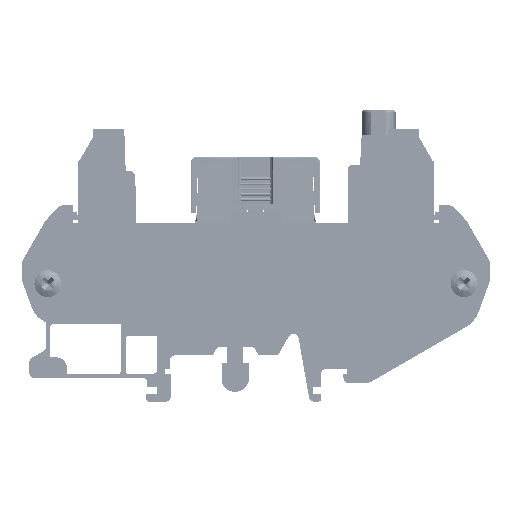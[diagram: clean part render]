
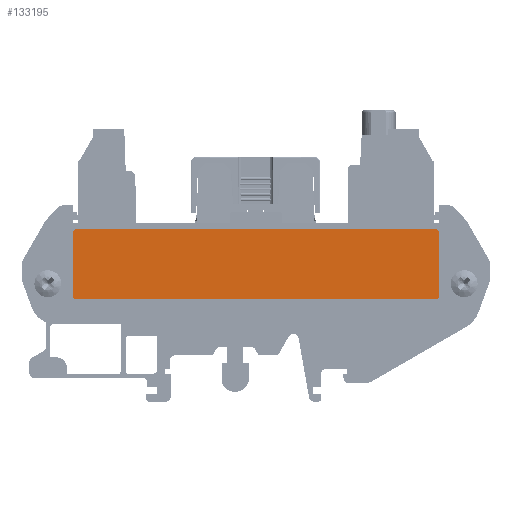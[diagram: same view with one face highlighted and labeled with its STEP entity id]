
A CAD part, left-side view. The second image highlights one B-rep face of the part: STEP entity #133195.
In plain terms, the highlighted planar face has unit normal (-1, 0, 0).
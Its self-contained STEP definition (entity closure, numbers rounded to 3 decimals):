
#5613=CIRCLE('',#143857,0.5);
#5732=CIRCLE('',#144107,0.5);
#5734=CIRCLE('',#144113,0.5);
#5748=CIRCLE('',#144166,0.5);
#14077=FACE_OUTER_BOUND('',#21230,.T.);
#21230=EDGE_LOOP('',(#114119,#114120,#114121,#114122,#114123,#114124,#114125,
#114126));
#34003=LINE('',#271653,#47313);
#34377=LINE('',#272652,#47687);
#34380=LINE('',#272660,#47690);
#34451=LINE('',#272832,#47761);
#47313=VECTOR('',#177722,1000.);
#47687=VECTOR('',#178634,1000.);
#47690=VECTOR('',#178639,1000.);
#47761=VECTOR('',#178826,1000.);
#59696=VERTEX_POINT('',#271650);
#59697=VERTEX_POINT('',#271652);
#59713=VERTEX_POINT('',#271703);
#60051=VERTEX_POINT('',#272643);
#60053=VERTEX_POINT('',#272650);
#60056=VERTEX_POINT('',#272657);
#60057=VERTEX_POINT('',#272659);
#60100=VERTEX_POINT('',#272827);
#77654=EDGE_CURVE('',#59696,#59697,#34003,.T.);
#77680=EDGE_CURVE('',#59697,#59713,#5613,.T.);
#78152=EDGE_CURVE('',#60051,#59696,#5732,.T.);
#78155=EDGE_CURVE('',#60053,#60051,#34377,.T.);
#78158=EDGE_CURVE('',#60057,#60056,#34380,.T.);
#78161=EDGE_CURVE('',#60057,#60053,#5734,.T.);
#78244=EDGE_CURVE('',#60100,#60056,#5748,.T.);
#78245=EDGE_CURVE('',#59713,#60100,#34451,.T.);
#114119=ORIENTED_EDGE('',*,*,#78245,.F.);
#114120=ORIENTED_EDGE('',*,*,#77680,.F.);
#114121=ORIENTED_EDGE('',*,*,#77654,.F.);
#114122=ORIENTED_EDGE('',*,*,#78152,.F.);
#114123=ORIENTED_EDGE('',*,*,#78155,.F.);
#114124=ORIENTED_EDGE('',*,*,#78161,.F.);
#114125=ORIENTED_EDGE('',*,*,#78158,.T.);
#114126=ORIENTED_EDGE('',*,*,#78244,.F.);
#120144=PLANE('',#144168);
#133195=ADVANCED_FACE('',(#14077),#120144,.F.);
#143857=AXIS2_PLACEMENT_3D('',#271704,#177773,#177774);
#144107=AXIS2_PLACEMENT_3D('',#272645,#178626,#178627);
#144113=AXIS2_PLACEMENT_3D('',#272664,#178645,#178646);
#144166=AXIS2_PLACEMENT_3D('',#272829,#178820,#178821);
#144168=AXIS2_PLACEMENT_3D('',#272831,#178824,#178825);
#177722=DIRECTION('',(0.,0.,1.));
#177773=DIRECTION('center_axis',(1.,0.,0.));
#177774=DIRECTION('ref_axis',(0.,-1.,0.));
#178626=DIRECTION('center_axis',(1.,0.,0.));
#178627=DIRECTION('ref_axis',(0.,-1.,0.));
#178634=DIRECTION('',(0.,1.,0.));
#178639=DIRECTION('',(0.,0.,1.));
#178645=DIRECTION('center_axis',(1.,0.,0.));
#178646=DIRECTION('ref_axis',(0.,-1.,0.));
#178820=DIRECTION('center_axis',(1.,0.,0.));
#178821=DIRECTION('ref_axis',(0.,-1.,0.));
#178824=DIRECTION('center_axis',(1.,0.,0.));
#178825=DIRECTION('ref_axis',(0.,1.,0.));
#178826=DIRECTION('',(0.,-1.,0.));
#271650=CARTESIAN_POINT('',(-1.3,71.,-14.2));
#271652=CARTESIAN_POINT('',(-1.3,71.,-1.8));
#271653=CARTESIAN_POINT('',(-1.3,71.,-14.2));
#271703=CARTESIAN_POINT('',(-1.3,70.5,-1.3));
#271704=CARTESIAN_POINT('Origin',(-1.3,70.5,-1.8));
#272643=CARTESIAN_POINT('',(-1.3,70.5,-14.7));
#272645=CARTESIAN_POINT('Origin',(-1.3,70.5,-14.2));
#272650=CARTESIAN_POINT('',(-1.3,1.5,-14.7));
#272652=CARTESIAN_POINT('',(-1.3,1.5,-14.7));
#272657=CARTESIAN_POINT('',(-1.3,1.,-1.8));
#272659=CARTESIAN_POINT('',(-1.3,1.,-14.2));
#272660=CARTESIAN_POINT('',(-1.3,1.,-14.2));
#272664=CARTESIAN_POINT('Origin',(-1.3,1.5,-14.2));
#272827=CARTESIAN_POINT('',(-1.3,1.5,-1.3));
#272829=CARTESIAN_POINT('Origin',(-1.3,1.5,-1.8));
#272831=CARTESIAN_POINT('Origin',(-1.3,56.,-33.65));
#272832=CARTESIAN_POINT('',(-1.3,70.5,-1.3));
